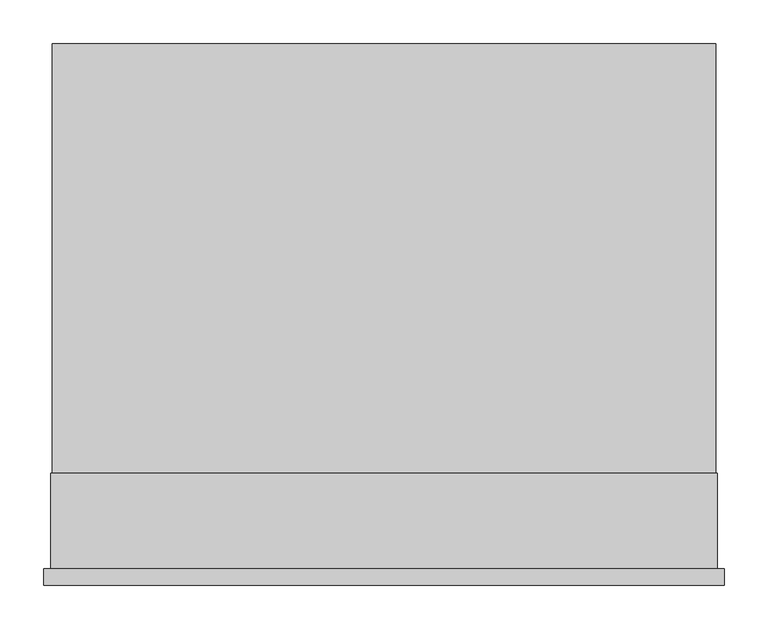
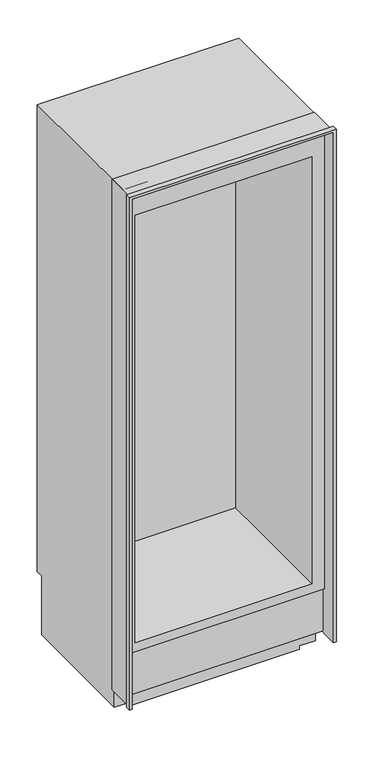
"""IFC4 building model written with IfcOpenShell, lengths in millimetres: proxy geometry, 11502900_USA_KF2802SF : 38280211_USA_11502900_KF2802SF."""

from ifc_helpers import new_model, si_unit, frame, origin, place, context, project, spatial, circle_curve, faceted_brep, source, transform, mapped, element, save
from ifc_brep_helpers import plane_surface, cylinder_surface, advanced_brep


def specialty_equipment_7db7d9b4(model_context):
    return source(origin(), model_context, "Body", "SolidModel", [
        advanced_brep(
        [(378.0, 68.0, 2114.0), (378.0, 68.0, 267.0), (378.0, 75.0, 267.0), (378.0, 75.0, 97.0), (378.0, 125.0, 97.0), (378.0, 125.0, 28.0), (378.0, 598.0, 28.0), (378.0, 598.0, 263.0), (378.0, 625.0, 263.0), (378.0, 625.0, 2114.0), (-378.0, 68.0, 2114.0), (-378.0, 625.0, 2114.0), (-378.0, 625.0, 263.0), (-378.0, 598.0, 263.0), (-378.0, 598.0, 28.0), (-378.0, 125.0, 28.0), (-378.0, 125.0, 97.0), (-378.0, 75.0, 97.0), (-378.0, 75.0, 267.0), (-378.0, 68.0, 267.0), (318.0, 598.0, 28.0), (318.0, 598.0, 14.0), (-318.0, 598.0, 14.0), (-318.0, 598.0, 28.0), (318.0, 125.0, 14.0), (-318.0, 125.0, 14.0), (-318.0, 125.0, 28.0), (318.0, 125.0, 28.0), (332.0, 68.0, 1998.0), (332.0, 68.0, 303.0), (-332.0, 68.0, 303.0), (-332.0, 68.0, 1998.0), (332.0, 565.0, 1998.0), (-332.0, 565.0, 1998.0), (-332.0, 565.0, 303.0), (332.0, 565.0, 303.0), (-336.5, 223.8193473, 28.0), (-355.5, 223.8193473, 28.0), (-355.5, 174.1806527, 28.0), (-336.5, 174.1806527, 28.0), (-356.0, 546.8193473, 28.0), (-356.0, 497.1806527, 28.0), (-340.0, 497.1806527, 28.0), (-340.0, 546.8193473, 28.0), (355.5, 174.1806527, 28.0), (355.5, 223.8193473, 28.0), (336.5, 223.8193473, 28.0), (336.5, 174.1806527, 28.0), (340.0, 546.8193473, 28.0), (340.0, 497.1806527, 28.0), (356.0, 497.1806527, 28.0), (356.0, 546.8193473, 28.0), (-336.5, 224.0, 25.0), (-336.5, 174.0, 25.0), (-355.5, 174.0, 25.0), (-355.5, 224.0, 25.0), (-336.5, 199.0, 25.0), (-355.5, 199.0, 25.0), (355.5, 199.0, 25.0), (355.5, 174.0, 25.0), (355.5, 224.0, 25.0), (336.5, 224.0, 25.0), (336.5, 174.0, 25.0), (336.5, 199.0, 25.0), (-356.0, 547.0, 25.0), (-356.0, 497.0, 25.0), (-356.0, 522.0, 25.0), (-340.0, 547.0, 25.0), (-340.0, 497.0, 25.0), (-340.0, 522.0, 25.0), (340.0, 547.0, 25.0), (340.0, 497.0, 25.0), (340.0, 522.0, 25.0), (356.0, 547.0, 25.0), (356.0, 497.0, 25.0), (356.0, 522.0, 25.0)],
        [
            (0, 1),
            (1, 2),
            (2, 3),
            (3, 4),
            (4, 5),
            (5, 6),
            (6, 7),
            (7, 8),
            (8, 9),
            (9, 0),
            (10, 11),
            (11, 12),
            (12, 13),
            (13, 14),
            (14, 15),
            (15, 16),
            (16, 17),
            (17, 18),
            (18, 19),
            (19, 10),
            (9, 11),
            (10, 0),
            (8, 12),
            (7, 13),
            (6, 20),
            (20, 21),
            (21, 22),
            (22, 23),
            (23, 14),
            (21, 24),
            (24, 25),
            (25, 22),
            (4, 16),
            (15, 26),
            (26, 25),
            (24, 27),
            (27, 5),
            (3, 17),
            (2, 18),
            (1, 19),
            (28, 29),
            (29, 30),
            (30, 31),
            (31, 28),
            (32, 33),
            (33, 34),
            (34, 35),
            (35, 32),
            (35, 29),
            (28, 32),
            (34, 30),
            (33, 31),
            (23, 26),
            (36, 37),
            (37, 38),
            (38, 39),
            (39, 36),
            (40, 41),
            (41, 42),
            (42, 43),
            (43, 40),
            (27, 20),
            (44, 45),
            (45, 46),
            (46, 47),
            (47, 44),
            (48, 49),
            (49, 50),
            (50, 51),
            (51, 48),
            (52, 53, circle_curve(frame((-336.5, 199.0, 25.0), z_axis=(-1.0, 0.0, 0.0), x_axis=(0.0, -1.0, 0.0)), 25.0)),
            (53, 54),
            (54, 55, circle_curve(frame((-355.5, 199.0, 25.0), z_axis=(1.0, 0.0, 0.0), x_axis=(0.0, -1.0, 0.0)), 25.0)),
            (55, 52),
            (53, 39, circle_curve(frame((-336.5, 199.0, 25.0), z_axis=(-1.0, 0.0, 0.0), x_axis=(0.0, -1.0, 0.0)), 25.0)),
            (38, 54, circle_curve(frame((-355.5, 199.0, 25.0), z_axis=(1.0, 0.0, 0.0), x_axis=(0.0, -1.0, 0.0)), 25.0)),
            (55, 37, circle_curve(frame((-355.5, 199.0, 25.0), z_axis=(1.0, 0.0, 0.0), x_axis=(0.0, -1.0, 0.0)), 25.0)),
            (36, 52, circle_curve(frame((-336.5, 199.0, 25.0), z_axis=(-1.0, 0.0, 0.0), x_axis=(0.0, -1.0, 0.0)), 25.0)),
            (52, 56),
            (56, 53),
            (54, 57),
            (57, 55),
            (58, 59),
            (59, 60, circle_curve(frame((355.5, 199.0, 25.0), z_axis=(1.0, 0.0, 0.0), x_axis=(0.0, -1.0, 0.0)), 25.0)),
            (60, 58),
            (60, 45, circle_curve(frame((355.5, 199.0, 25.0), z_axis=(1.0, 0.0, 0.0), x_axis=(0.0, -1.0, 0.0)), 25.0)),
            (44, 59, circle_curve(frame((355.5, 199.0, 25.0), z_axis=(1.0, 0.0, 0.0), x_axis=(0.0, -1.0, 0.0)), 25.0)),
            (61, 62, circle_curve(frame((336.5, 199.0, 25.0), z_axis=(-1.0, 0.0, 0.0), x_axis=(0.0, -1.0, 0.0)), 25.0)),
            (62, 63),
            (63, 61),
            (62, 47, circle_curve(frame((336.5, 199.0, 25.0), z_axis=(-1.0, 0.0, 0.0), x_axis=(0.0, -1.0, 0.0)), 25.0)),
            (46, 61, circle_curve(frame((336.5, 199.0, 25.0), z_axis=(-1.0, 0.0, 0.0), x_axis=(0.0, -1.0, 0.0)), 25.0)),
            (64, 65, circle_curve(frame((-356.0, 522.0, 25.0), z_axis=(-1.0, 0.0, 0.0), x_axis=(0.0, -1.0, 0.0)), 25.0)),
            (65, 66),
            (66, 64),
            (65, 41, circle_curve(frame((-356.0, 522.0, 25.0), z_axis=(-1.0, 0.0, 0.0), x_axis=(0.0, -1.0, 0.0)), 25.0)),
            (40, 64, circle_curve(frame((-356.0, 522.0, 25.0), z_axis=(-1.0, 0.0, 0.0), x_axis=(0.0, -1.0, 0.0)), 25.0)),
            (64, 67),
            (67, 68, circle_curve(frame((-340.0, 522.0, 25.0), z_axis=(-1.0, 0.0, 0.0), x_axis=(0.0, -1.0, 0.0)), 25.0)),
            (68, 65),
            (43, 67, circle_curve(frame((-340.0, 522.0, 25.0), z_axis=(-1.0, 0.0, 0.0), x_axis=(0.0, -1.0, 0.0)), 25.0)),
            (68, 42, circle_curve(frame((-340.0, 522.0, 25.0), z_axis=(-1.0, 0.0, 0.0), x_axis=(0.0, -1.0, 0.0)), 25.0)),
            (67, 69),
            (69, 68),
            (70, 71, circle_curve(frame((340.0, 522.0, 25.0), z_axis=(-1.0, 0.0, 0.0), x_axis=(0.0, -1.0, 0.0)), 25.0)),
            (71, 72),
            (72, 70),
            (71, 49, circle_curve(frame((340.0, 522.0, 25.0), z_axis=(-1.0, 0.0, 0.0), x_axis=(0.0, -1.0, 0.0)), 25.0)),
            (48, 70, circle_curve(frame((340.0, 522.0, 25.0), z_axis=(-1.0, 0.0, 0.0), x_axis=(0.0, -1.0, 0.0)), 25.0)),
            (70, 73),
            (73, 74, circle_curve(frame((356.0, 522.0, 25.0), z_axis=(-1.0, 0.0, 0.0), x_axis=(0.0, -1.0, 0.0)), 25.0)),
            (74, 71),
            (51, 73, circle_curve(frame((356.0, 522.0, 25.0), z_axis=(-1.0, 0.0, 0.0), x_axis=(0.0, -1.0, 0.0)), 25.0)),
            (74, 50, circle_curve(frame((356.0, 522.0, 25.0), z_axis=(-1.0, 0.0, 0.0), x_axis=(0.0, -1.0, 0.0)), 25.0)),
            (73, 75),
            (75, 74),
            (59, 62),
            (61, 60),
        ],
        [
            plane_surface(frame((378.0, 625.0, 2114.0), z_axis=(1.0, 0.0, 0.0), x_axis=(0.0, -1.0, 0.0))),
            plane_surface(frame((-378.0, 625.0, 2114.0), z_axis=(-1.0, 0.0, 0.0), x_axis=(0.0, 1.0, 0.0))),
            plane_surface(frame((-378.0, 68.0, 2114.0), z_axis=(0.0, 0.0, 1.0), x_axis=(1.0, 0.0, 0.0))),
            plane_surface(frame((-378.0, 625.0, 2114.0), z_axis=(0.0, 1.0, 0.0), x_axis=(1.0, 0.0, 0.0))),
            plane_surface(frame((-378.0, 625.0, 263.0), z_axis=(0.0, 0.0, -1.0), x_axis=(1.0, 0.0, 0.0))),
            plane_surface(frame((-378.0, 598.0, 263.0), z_axis=(0.0, 1.0, 0.0), x_axis=(1.0, 0.0, 0.0))),
            plane_surface(frame((-378.0, 598.0, 14.0), z_axis=(0.0, 0.0, -1.0), x_axis=(1.0, 0.0, 0.0))),
            plane_surface(frame((-378.0, 125.0, 14.0), z_axis=(0.0, -1.0, 0.0), x_axis=(1.0, 0.0, 0.0))),
            plane_surface(frame((-378.0, 125.0, 97.0), z_axis=(0.0, 0.0, -1.0), x_axis=(1.0, 0.0, 0.0))),
            plane_surface(frame((-378.0, 75.0, 97.0), z_axis=(0.0, -1.0, 0.0), x_axis=(1.0, 0.0, 0.0))),
            plane_surface(frame((-378.0, 75.0, 267.0), z_axis=(0.0, 0.0, -1.0), x_axis=(1.0, 0.0, 0.0))),
            plane_surface(frame((-378.0, 68.0, 267.0), z_axis=(0.0, -1.0, 0.0), x_axis=(1.0, 0.0, 0.0))),
            plane_surface(frame((332.0, 565.0, 1998.0), z_axis=(0.0, -1.0, 0.0), x_axis=(0.0, 0.0, -1.0))),
            plane_surface(frame((332.0, 565.0, 1998.0), z_axis=(-1.0, 0.0, 0.0), x_axis=(0.0, -1.0, 0.0))),
            plane_surface(frame((332.0, 565.0, 303.0), z_axis=(0.0, 0.0, 1.0), x_axis=(0.0, -1.0, 0.0))),
            plane_surface(frame((-332.0, 565.0, 303.0), z_axis=(1.0, 0.0, 0.0), x_axis=(0.0, -1.0, 0.0))),
            plane_surface(frame((-332.0, 565.0, 1998.0), z_axis=(0.0, 0.0, -1.0), x_axis=(0.0, -1.0, 0.0))),
            plane_surface(frame((-378.0, 625.0, 28.0), z_axis=(0.0, 0.0, -1.0), x_axis=(-1.0, 0.0, 0.0))),
            plane_surface(frame((-318.0, 125.0, 28.0), z_axis=(-1.0, 0.0, 0.0), x_axis=(0.0, 0.0, -1.0))),
            plane_surface(frame((318.0, 625.0, 28.0), z_axis=(1.0, 0.0, 0.0), x_axis=(0.0, 0.0, -1.0))),
            cylinder_surface(frame((-470.6988927, 199.0, 25.0), z_axis=(1.0, 0.0, 0.0), x_axis=(0.0, -1.0, 0.0)), 25.0),
            plane_surface(frame((-336.5, 199.0, 25.0), z_axis=(1.0, 0.0, 0.0), x_axis=(0.0, -1.0, 0.0))),
            plane_surface(frame((-355.5, 199.0, 25.0), z_axis=(-1.0, 0.0, 0.0), x_axis=(0.0, -1.0, 0.0))),
            plane_surface(frame((355.5, 199.0, 25.0), z_axis=(1.0, 0.0, 0.0), x_axis=(0.0, -1.0, 0.0))),
            plane_surface(frame((336.5, 199.0, 25.0), z_axis=(-1.0, 0.0, 0.0), x_axis=(0.0, -1.0, 0.0))),
            plane_surface(frame((-356.0, 522.0, 25.0), z_axis=(-1.0, 0.0, 0.0), x_axis=(0.0, -1.0, 0.0))),
            cylinder_surface(frame((-470.6988927, 522.0, 25.0), z_axis=(1.0, 0.0, 0.0), x_axis=(0.0, -1.0, 0.0)), 25.0),
            plane_surface(frame((-340.0, 522.0, 25.0), z_axis=(1.0, 0.0, 0.0), x_axis=(0.0, -1.0, 0.0))),
            plane_surface(frame((340.0, 522.0, 25.0), z_axis=(-1.0, 0.0, 0.0), x_axis=(0.0, -1.0, 0.0))),
            plane_surface(frame((356.0, 522.0, 25.0), z_axis=(1.0, 0.0, 0.0), x_axis=(0.0, -1.0, 0.0))),
        ],
        [
            (0, [[1, 2, 3, 4, 5, 6, 7, 8, 9, 10]]),
            (1, [[11, 12, 13, 14, 15, 16, 17, 18, 19, 20]]),
            (2, [[-10, 21, -11, 22]]),
            (3, [[-9, 23, -12, -21]]),
            (4, [[-8, 24, -13, -23]]),
            (5, [[-24, -7, 25, 26, 27, 28, 29, -14]]),
            (6, [[-27, 30, 31, 32]]),
            (7, [[33, -16, 34, 35, -31, 36, 37, -5]]),
            (8, [[-4, 38, -17, -33]]),
            (9, [[-3, 39, -18, -38]]),
            (10, [[-2, 40, -19, -39]]),
            (11, [[-1, -22, -20, -40], [41, 42, 43, 44]]),
            (12, [[45, 46, 47, 48]]),
            (13, [[-48, 49, -41, 50]]),
            (14, [[-47, 51, -42, -49]]),
            (15, [[-46, 52, -43, -51]]),
            (16, [[-45, -50, -44, -52]]),
            (17, [[53, -34, -15, -29], [54, 55, 56, 57], [58, 59, 60, 61]]),
            (17, [[62, -25, -6, -37], [63, 64, 65, 66], [67, 68, 69, 70]]),
            (18, [[-53, -28, -32, -35]]),
            (19, [[-62, -36, -30, -26]]),
            (20, [[71, 72, 73, 74]]),
            (20, [[-72, 75, -56, 76]]),
            (20, [[-74, 77, -54, 78]]),
            (21, [[-71, 79, 80]]),
            (21, [[-80, -79, -78, -57, -75]]),
            (22, [[-73, 81, 82]]),
            (22, [[-81, -76, -55, -77, -82]]),
            (23, [[83, 84, 85]]),
            (23, [[-83, -85, 86, -63, 87]]),
            (24, [[88, 89, 90]]),
            (24, [[-89, 91, -65, 92, -90]]),
            (25, [[93, 94, 95]]),
            (25, [[-94, 96, -58, 97, -95]]),
            (26, [[-93, 98, 99, 100]]),
            (26, [[-98, -97, -61, 101]]),
            (26, [[-100, 102, -59, -96]]),
            (27, [[-99, 103, 104]]),
            (27, [[-104, -103, -101, -60, -102]]),
            (28, [[105, 106, 107]]),
            (28, [[-106, 108, -67, 109, -107]]),
            (26, [[-105, 110, 111, 112]]),
            (26, [[-110, -109, -70, 113]]),
            (26, [[-112, 114, -68, -108]]),
            (29, [[-111, 115, 116]]),
            (29, [[-116, -115, -113, -69, -114]]),
            (20, [[-84, 117, -88, 118]]),
            (20, [[-117, -87, -66, -91]]),
            (20, [[-118, -92, -64, -86]]),
        ],
    ),
        faceted_brep([(-387.5, 27.0, 91.0), (-387.5, 27.0, 2123.0), (387.5, 27.0, 2123.0), (387.5, 27.0, 91.0), (379.7, 27.0, 91.0), (379.7, 27.0, 2115.0), (-379.7, 27.0, 2115.0), (-379.7, 27.0, 91.0), (378.0, 8.0, 2114.0), (378.0, 8.0, 91.0), (387.5, 8.0, 91.0), (387.5, 8.0, 2123.0), (-387.5, 8.0, 2123.0), (-387.5, 8.0, 91.0), (-378.0, 8.0, 91.0), (-378.0, 8.0, 2114.0), (378.0, 136.0, 2114.0), (378.0, 136.0, 91.0), (-378.0, 136.0, 91.0), (-378.0, 136.0, 2114.0), (-379.7, 136.0, 91.0), (379.7, 136.0, 91.0), (-379.7, 136.0, 2115.0), (379.7, 136.0, 2115.0)], [[[0, 1, 2, 3, 4, 5, 6, 7]], [[8, 9, 10, 11, 12, 13, 14, 15]], [[9, 8, 16, 17]], [[15, 14, 18, 19]], [[16, 8, 15, 19]], [[18, 14, 13, 0, 7, 20]], [[1, 0, 13, 12]], [[2, 1, 12, 11]], [[3, 2, 11, 10]], [[10, 9, 17, 21, 4, 3]], [[16, 19, 18, 20, 22, 23, 21, 17]], [[22, 20, 7, 6]], [[23, 22, 6, 5]], [[21, 23, 5, 4]]]),
    ])


if __name__ == "__main__":
    model = new_model("IFC4")
    model_context = context("Model", 3, world=origin())
    ifc_project = project(units=[si_unit("LENGTHUNIT", "METRE", prefix="MILLI")], contexts=[model_context])
    site = spatial("IfcSite", under=ifc_project)
    building = spatial("IfcBuilding", under=site)
    placement = place(None, origin())
    specialty_equipment_shape = specialty_equipment_7db7d9b4(model_context)
    element("IfcBuildingElementProxy", 1, Name="11502900_USA_KF2802SF : 38280211_USA_11502900_KF2802SF", ObjectType="11502900_USA_KF2802SF : 38280211_USA_11502900_KF2802SF", at=placement, inside=building, context=model_context, shape_type="MappedRepresentation", body=[
        mapped(specialty_equipment_shape, transform((0.0, 0.0, 0.0), x_axis=(1.0, 0.0, 0.0), y_axis=(0.0, 1.0, 0.0), z_axis=(0.0, 0.0, 1.0))),
    ])
    save(model, "model.ifc")
